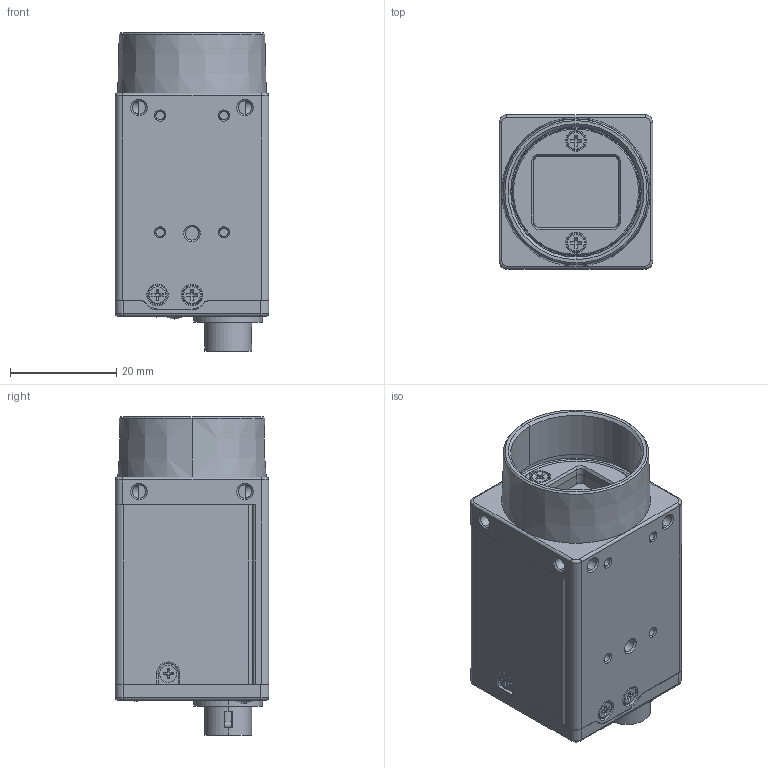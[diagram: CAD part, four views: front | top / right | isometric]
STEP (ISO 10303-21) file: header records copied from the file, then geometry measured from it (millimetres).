
FILE_DESCRIPTION((''),'2;1');
FILE_NAME('DH3-1447-6038_1_1','2023-12-06T11:46:08',('21511'),(''),'CREO PARAMETRIC BY PTC INC, 2020184','CREO PARAMETRIC BY PTC INC, 2020184','');
FILE_SCHEMA(('AP242_MANAGED_MODEL_BASED_3D_ENGINEERING_MIM_LF { 1 0 10303 442 1 1 4 }'));
Products named in the file (1): DH3-1447-6038_1_1
Bounding box: 29 x 29 x 60 mm (x, y, z)
Volume: 34375.3 mm3; surface area: 13633.1 mm2
Topology: 1 solids, 8 shells, 1378 faces, 3773 edges, 2409 vertices
Faces by surface type: plane 753, cylinder 397, cone 109, bspline 44, extrusion 36, torus 31, sphere 8
Entity records: 58978 total; most frequent: CARTESIAN_POINT 11195, ORIENTED_EDGE 7530, DIRECTION 6959, PRESENTATION_STYLE_ASSIGNMENT 3877, STYLED_ITEM 3766, CURVE_STYLE 3765, EDGE_CURVE 3765, VECTOR 2545
